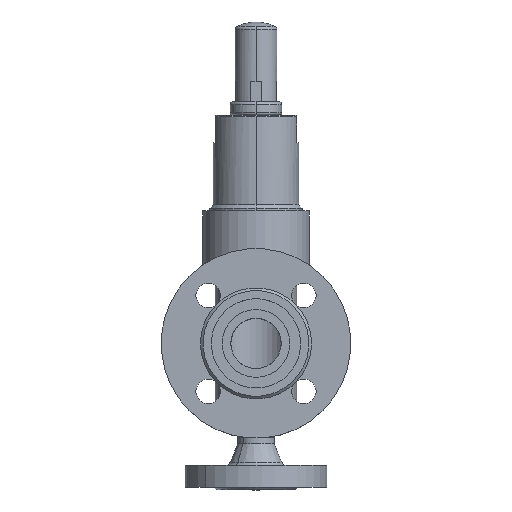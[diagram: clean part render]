
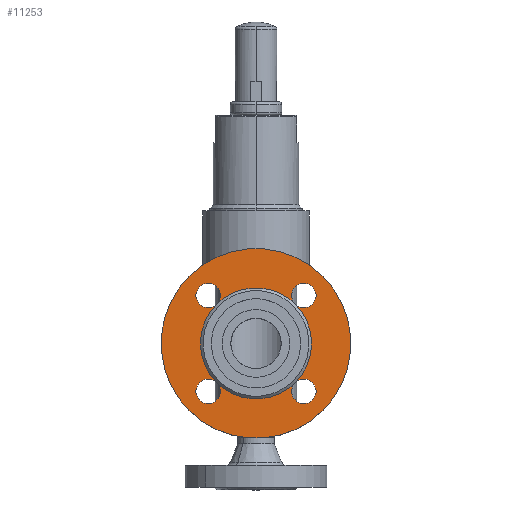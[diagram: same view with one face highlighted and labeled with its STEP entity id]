
A CAD part, top view. The second image highlights one B-rep face of the part: STEP entity #11253.
In plain terms, the highlighted planar face has unit normal (0, 0, 1) as drawn and (0, -1, 0) by its records, which use the part's own axes.
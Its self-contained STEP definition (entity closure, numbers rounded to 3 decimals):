
#235 = ORIENTED_EDGE ( 'NONE', *, *, #14018, .T. ) ;
#334 = CIRCLE ( 'NONE', #335, 9. ) ;
#335 = AXIS2_PLACEMENT_3D ( 'NONE', #336, #337, #338 ) ;
#336 = CARTESIAN_POINT ( 'NONE',  ( 0., 2., -50. ) ) ;
#337 = DIRECTION ( 'NONE',  ( 0., 1., 0. ) ) ;
#338 = DIRECTION ( 'NONE',  ( -1., 0., 0. ) ) ;
#564 = CARTESIAN_POINT ( 'NONE',  ( -59., 2., 0. ) ) ;
#754 = ORIENTED_EDGE ( 'NONE', *, *, #10889, .T. ) ;
#770 = CARTESIAN_POINT ( 'NONE',  ( -41., 2., 0. ) ) ;
#1115 = CIRCLE ( 'NONE', #1116, 41. ) ;
#1116 = AXIS2_PLACEMENT_3D ( 'NONE', #1117, #1118, #1119 ) ;
#1117 = CARTESIAN_POINT ( 'NONE',  ( 0., 2., 0. ) ) ;
#1118 = DIRECTION ( 'NONE',  ( 0., 1., 0. ) ) ;
#1119 = DIRECTION ( 'NONE',  ( -1., 0., 0. ) ) ;
#1125 = CIRCLE ( 'NONE', #1132, 9. ) ;
#1132 = AXIS2_PLACEMENT_3D ( 'NONE', #1133, #1134, #1135 ) ;
#1133 = CARTESIAN_POINT ( 'NONE',  ( 0., 2., 50. ) ) ;
#1134 = DIRECTION ( 'NONE',  ( 0., 1., 0. ) ) ;
#1135 = DIRECTION ( 'NONE',  ( -1., 0., 0. ) ) ;
#1167 = CIRCLE ( 'NONE', #1168, 9. ) ;
#1168 = AXIS2_PLACEMENT_3D ( 'NONE', #1169, #1170, #1171 ) ;
#1169 = CARTESIAN_POINT ( 'NONE',  ( -50., 2., 0. ) ) ;
#1170 = DIRECTION ( 'NONE',  ( 0., 1., 0. ) ) ;
#1171 = DIRECTION ( 'NONE',  ( -1., 0., 0. ) ) ;
#1279 = ORIENTED_EDGE ( 'NONE', *, *, #10929, .T. ) ;
#1284 = CARTESIAN_POINT ( 'NONE',  ( 0., 2., -41. ) ) ;
#1589 = CIRCLE ( 'NONE', #1590, 41. ) ;
#1590 = AXIS2_PLACEMENT_3D ( 'NONE', #1591, #1592, #1593 ) ;
#1591 = CARTESIAN_POINT ( 'NONE',  ( 0., 2., 0. ) ) ;
#1592 = DIRECTION ( 'NONE',  ( 0., 1., 0. ) ) ;
#1593 = DIRECTION ( 'NONE',  ( -1., 0., 0. ) ) ;
#1808 = EDGE_CURVE ( 'NONE', #8801, #10901, #12761, .T. ) ;
#2072 = CARTESIAN_POINT ( 'NONE',  ( -9., 2., 50. ) ) ;
#2177 = ORIENTED_EDGE ( 'NONE', *, *, #1808, .T. ) ;
#2334 = EDGE_CURVE ( 'NONE', #10642, #10608, #13271, .T. ) ;
#2790 = EDGE_CURVE ( 'NONE', #10860, #12732, #13791, .T. ) ;
#2878 = ORIENTED_EDGE ( 'NONE', *, *, #9252, .T. ) ;
#3854 = EDGE_CURVE ( 'NONE', #12732, #10608, #1115, .T. ) ;
#3874 = EDGE_CURVE ( 'NONE', #12732, #4775, #1125, .T. ) ;
#4100 = CIRCLE ( 'NONE', #4101, 9. ) ;
#4101 = AXIS2_PLACEMENT_3D ( 'NONE', #4102, #4103, #4104 ) ;
#4102 = CARTESIAN_POINT ( 'NONE',  ( 50., 2., 0. ) ) ;
#4103 = DIRECTION ( 'NONE',  ( 0., 1., 0. ) ) ;
#4104 = DIRECTION ( 'NONE',  ( -1., 0., 0. ) ) ;
#4775 = VERTEX_POINT ( 'NONE', #2072 ) ;
#4822 = CARTESIAN_POINT ( 'NONE',  ( 70., 2., 0. ) ) ;
#4830 = ORIENTED_EDGE ( 'NONE', *, *, #2334, .T. ) ;
#5014 = CARTESIAN_POINT ( 'NONE',  ( -70., 2., 0. ) ) ;
#5025 = FACE_OUTER_BOUND ( 'NONE', #11221, .T. ) ;
#5026 = FACE_BOUND ( 'NONE', #11023, .T. ) ;
#5027 = PLANE ( 'NONE',  #5028 ) ;
#5028 = AXIS2_PLACEMENT_3D ( 'NONE', #5029, #5030, #5031 ) ;
#5029 = CARTESIAN_POINT ( 'NONE',  ( 41., 2., 0. ) ) ;
#5030 = DIRECTION ( 'NONE',  ( 0., 1., 0. ) ) ;
#5031 = DIRECTION ( 'NONE',  ( -1., 0., 0. ) ) ;
#5163 = CIRCLE ( 'NONE', #5164, 70. ) ;
#5164 = AXIS2_PLACEMENT_3D ( 'NONE', #5165, #5166, #5167 ) ;
#5165 = CARTESIAN_POINT ( 'NONE',  ( 0., 2., 0. ) ) ;
#5166 = DIRECTION ( 'NONE',  ( 0., 1., 0. ) ) ;
#5167 = DIRECTION ( 'NONE',  ( -1., 0., 0. ) ) ;
#5526 = EDGE_CURVE ( 'NONE', #10608, #10642, #4100, .T. ) ;
#5901 = ORIENTED_EDGE ( 'NONE', *, *, #5526, .T. ) ;
#6005 = CIRCLE ( 'NONE', #6006, 9. ) ;
#6006 = AXIS2_PLACEMENT_3D ( 'NONE', #6007, #6008, #6009 ) ;
#6007 = CARTESIAN_POINT ( 'NONE',  ( 0., 2., 50. ) ) ;
#6008 = DIRECTION ( 'NONE',  ( 0., 1., 0. ) ) ;
#6009 = DIRECTION ( 'NONE',  ( -1., 0., 0. ) ) ;
#6418 = ORIENTED_EDGE ( 'NONE', *, *, #3854, .T. ) ;
#6942 = ORIENTED_EDGE ( 'NONE', *, *, #13182, .T. ) ;
#7458 = EDGE_CURVE ( 'NONE', #4775, #12958, #6005, .T. ) ;
#7777 = CIRCLE ( 'NONE', #7778, 70. ) ;
#7778 = AXIS2_PLACEMENT_3D ( 'NONE', #7779, #7780, #7781 ) ;
#7779 = CARTESIAN_POINT ( 'NONE',  ( 0., 2., 0. ) ) ;
#7780 = DIRECTION ( 'NONE',  ( 0., 1., 0. ) ) ;
#7781 = DIRECTION ( 'NONE',  ( -1., 0., 0. ) ) ;
#7838 = ORIENTED_EDGE ( 'NONE', *, *, #7458, .T. ) ;
#8202 = CARTESIAN_POINT ( 'NONE',  ( 0., 2., 41. ) ) ;
#8463 = CARTESIAN_POINT ( 'NONE',  ( 9., 2., 50. ) ) ;
#8642 = CIRCLE ( 'NONE', #8643, 9. ) ;
#8643 = AXIS2_PLACEMENT_3D ( 'NONE', #8644, #8645, #8646 ) ;
#8644 = CARTESIAN_POINT ( 'NONE',  ( 0., 2., 50. ) ) ;
#8645 = DIRECTION ( 'NONE',  ( 0., 1., 0. ) ) ;
#8646 = DIRECTION ( 'NONE',  ( -1., 0., 0. ) ) ;
#8801 = VERTEX_POINT ( 'NONE', #9042 ) ;
#9027 = VERTEX_POINT ( 'NONE', #9186 ) ;
#9042 = CARTESIAN_POINT ( 'NONE',  ( -9., 2., -50. ) ) ;
#9186 = CARTESIAN_POINT ( 'NONE',  ( 9., 2., -50. ) ) ;
#9252 = EDGE_CURVE ( 'NONE', #9027, #8801, #9421, .T. ) ;
#9421 = CIRCLE ( 'NONE', #9422, 9. ) ;
#9422 = AXIS2_PLACEMENT_3D ( 'NONE', #9423, #9424, #9425 ) ;
#9423 = CARTESIAN_POINT ( 'NONE',  ( 0., 2., -50. ) ) ;
#9424 = DIRECTION ( 'NONE',  ( 0., 1., 0. ) ) ;
#9425 = DIRECTION ( 'NONE',  ( -1., 0., 0. ) ) ;
#9600 = CIRCLE ( 'NONE', #9601, 9. ) ;
#9601 = AXIS2_PLACEMENT_3D ( 'NONE', #9603, #9604, #9605 ) ;
#9603 = CARTESIAN_POINT ( 'NONE',  ( -50., 2., 0. ) ) ;
#9604 = DIRECTION ( 'NONE',  ( 0., 1., 0. ) ) ;
#9605 = DIRECTION ( 'NONE',  ( -1., 0., 0. ) ) ;
#10608 = VERTEX_POINT ( 'NONE', #12833 ) ;
#10642 = VERTEX_POINT ( 'NONE', #13036 ) ;
#10750 = EDGE_CURVE ( 'NONE', #10608, #10901, #13892, .T. ) ;
#10821 = EDGE_CURVE ( 'NONE', #10901, #9027, #334, .T. ) ;
#10831 = VERTEX_POINT ( 'NONE', #564 ) ;
#10860 = VERTEX_POINT ( 'NONE', #770 ) ;
#10871 = ORIENTED_EDGE ( 'NONE', *, *, #10821, .T. ) ;
#10889 = EDGE_CURVE ( 'NONE', #10860, #10831, #1167, .T. ) ;
#10901 = VERTEX_POINT ( 'NONE', #1284 ) ;
#10929 = EDGE_CURVE ( 'NONE', #10901, #10860, #1589, .T. ) ;
#10953 = ORIENTED_EDGE ( 'NONE', *, *, #10750, .T. ) ;
#11023 = EDGE_LOOP ( 'NONE', ( #10953, #10871, #2878, #2177, #1279, #754, #235, #13498, #12976, #7838, #6942, #6418, #5901, #4830 ) ) ;
#11063 = ORIENTED_EDGE ( 'NONE', *, *, #12391, .F. ) ;
#11149 = ORIENTED_EDGE ( 'NONE', *, *, #11283, .F. ) ;
#11220 = VERTEX_POINT ( 'NONE', #4822 ) ;
#11221 = EDGE_LOOP ( 'NONE', ( #11149, #11063 ) ) ;
#11251 = VERTEX_POINT ( 'NONE', #5014 ) ;
#11253 = ADVANCED_FACE ( 'NONE', ( #5025, #5026 ), #5027, .F. ) ;
#11283 = EDGE_CURVE ( 'NONE', #11251, #11220, #5163, .T. ) ;
#12391 = EDGE_CURVE ( 'NONE', #11220, #11251, #7777, .T. ) ;
#12732 = VERTEX_POINT ( 'NONE', #8202 ) ;
#12761 = CIRCLE ( 'NONE', #12762, 9. ) ;
#12762 = AXIS2_PLACEMENT_3D ( 'NONE', #12763, #12764, #12765 ) ;
#12763 = CARTESIAN_POINT ( 'NONE',  ( 0., 2., -50. ) ) ;
#12764 = DIRECTION ( 'NONE',  ( 0., 1., 0. ) ) ;
#12765 = DIRECTION ( 'NONE',  ( -1., 0., 0. ) ) ;
#12833 = CARTESIAN_POINT ( 'NONE',  ( 41., 2., 0. ) ) ;
#12958 = VERTEX_POINT ( 'NONE', #8463 ) ;
#12976 = ORIENTED_EDGE ( 'NONE', *, *, #3874, .T. ) ;
#13036 = CARTESIAN_POINT ( 'NONE',  ( 59., 2., 0. ) ) ;
#13182 = EDGE_CURVE ( 'NONE', #12958, #12732, #8642, .T. ) ;
#13271 = CIRCLE ( 'NONE', #13272, 9. ) ;
#13272 = AXIS2_PLACEMENT_3D ( 'NONE', #13273, #13274, #13275 ) ;
#13273 = CARTESIAN_POINT ( 'NONE',  ( 50., 2., 0. ) ) ;
#13274 = DIRECTION ( 'NONE',  ( 0., 1., 0. ) ) ;
#13275 = DIRECTION ( 'NONE',  ( -1., 0., 0. ) ) ;
#13498 = ORIENTED_EDGE ( 'NONE', *, *, #2790, .T. ) ;
#13791 = CIRCLE ( 'NONE', #13796, 41. ) ;
#13796 = AXIS2_PLACEMENT_3D ( 'NONE', #13797, #13798, #13799 ) ;
#13797 = CARTESIAN_POINT ( 'NONE',  ( 0., 2., 0. ) ) ;
#13798 = DIRECTION ( 'NONE',  ( 0., 1., 0. ) ) ;
#13799 = DIRECTION ( 'NONE',  ( -1., 0., 0. ) ) ;
#13892 = CIRCLE ( 'NONE', #13893, 41. ) ;
#13893 = AXIS2_PLACEMENT_3D ( 'NONE', #13894, #13895, #13896 ) ;
#13894 = CARTESIAN_POINT ( 'NONE',  ( 0., 2., 0. ) ) ;
#13895 = DIRECTION ( 'NONE',  ( 0., 1., 0. ) ) ;
#13896 = DIRECTION ( 'NONE',  ( -1., 0., 0. ) ) ;
#14018 = EDGE_CURVE ( 'NONE', #10831, #10860, #9600, .T. ) ;
